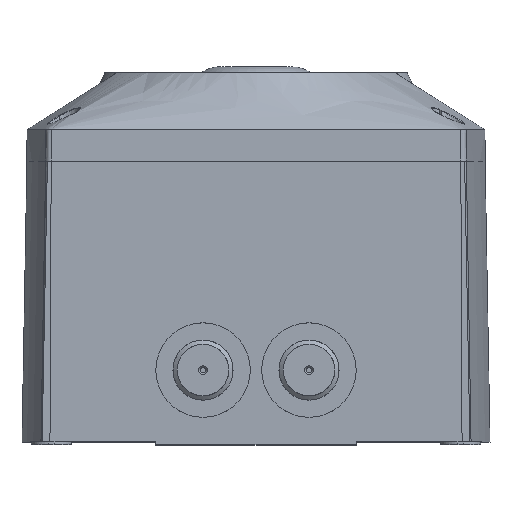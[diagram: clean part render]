
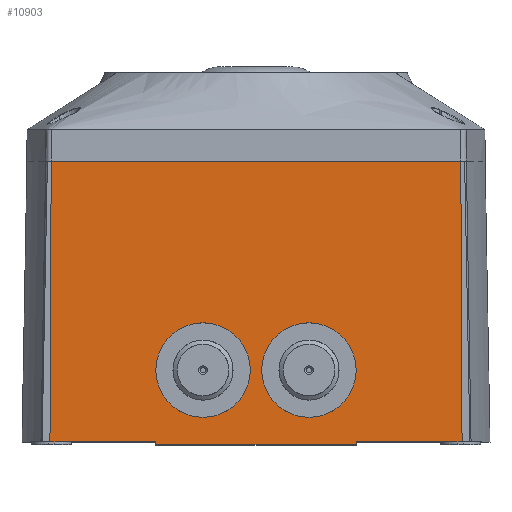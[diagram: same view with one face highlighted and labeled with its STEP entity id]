
A CAD part, top view. The second image highlights one B-rep face of the part: STEP entity #10903.
In plain terms, the highlighted planar face has unit normal (0, 0, 1).
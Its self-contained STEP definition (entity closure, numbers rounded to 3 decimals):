
#106 = VERTEX_POINT ( 'NONE', #13193 ) ;
#119 = VERTEX_POINT ( 'NONE', #13132 ) ;
#127 = EDGE_CURVE ( 'NONE', #119, #106, #13108, .T. ) ;
#135 = VERTEX_POINT ( 'NONE', #13115 ) ;
#137 = EDGE_CURVE ( 'NONE', #138, #135, #12998, .T. ) ;
#138 = VERTEX_POINT ( 'NONE', #13101 ) ;
#141 = VERTEX_POINT ( 'NONE', #13027 ) ;
#144 = EDGE_CURVE ( 'NONE', #157, #141, #13090, .T. ) ;
#148 = EDGE_CURVE ( 'NONE', #157, #119, #13066, .T. ) ;
#157 = VERTEX_POINT ( 'NONE', #12606 ) ;
#1166 = VERTEX_POINT ( 'NONE', #2011 ) ;
#1188 = EDGE_CURVE ( 'NONE', #1166, #106, #2497, .T. ) ;
#1199 = EDGE_CURVE ( 'NONE', #10904, #1166, #2533, .T. ) ;
#1203 = EDGE_LOOP ( 'NONE', ( #10905 ) ) ;
#2011 = CARTESIAN_POINT ( 'NONE',  ( -71.946, -8., 67.5 ) ) ;
#2465 = DIRECTION ( 'NONE',  ( -0.004, -1., 0. ) ) ;
#2495 = DIRECTION ( 'NONE',  ( 1., 0., 0. ) ) ;
#2496 = VECTOR ( 'NONE', #2495, 1000. ) ;
#2497 = LINE ( 'NONE', #2498, #2496 ) ;
#2498 = CARTESIAN_POINT ( 'NONE',  ( 150., -8., 67.5 ) ) ;
#2533 = LINE ( 'NONE', #2602, #2601 ) ;
#2601 = VECTOR ( 'NONE', #2465, 1000. ) ;
#2602 = CARTESIAN_POINT ( 'NONE',  ( -71.519, 90., 67.5 ) ) ;
#3935 = CIRCLE ( 'NONE', #4109, 16.502 ) ;
#3965 = FACE_BOUND ( 'NONE', #10774, .T. ) ;
#3982 = FACE_BOUND ( 'NONE', #1203, .T. ) ;
#4081 = DIRECTION ( 'NONE',  ( -1., 0., 0. ) ) ;
#4082 = DIRECTION ( 'NONE',  ( 0., 0., -1. ) ) ;
#4083 = AXIS2_PLACEMENT_3D ( 'NONE', #4105, #4082, #4081 ) ;
#4101 = CARTESIAN_POINT ( 'NONE',  ( -71.519, 90., 67.5 ) ) ;
#4102 = DIRECTION ( 'NONE',  ( -1., 0., 0. ) ) ;
#4103 = DIRECTION ( 'NONE',  ( 0., 0., 1. ) ) ;
#4104 = CARTESIAN_POINT ( 'NONE',  ( -18.5, 17., 67.5 ) ) ;
#4105 = CARTESIAN_POINT ( 'NONE',  ( 35., -9., 67.5 ) ) ;
#4107 = FACE_OUTER_BOUND ( 'NONE', #10776, .T. ) ;
#4108 = PLANE ( 'NONE',  #4083 ) ;
#4109 = AXIS2_PLACEMENT_3D ( 'NONE', #4104, #4103, #4102 ) ;
#4310 = DIRECTION ( 'NONE',  ( 1., 0., 0. ) ) ;
#4311 = VECTOR ( 'NONE', #4310, 1000. ) ;
#4312 = LINE ( 'NONE', #4313, #4311 ) ;
#4313 = CARTESIAN_POINT ( 'NONE',  ( 27.789, 90., 67.5 ) ) ;
#6411 = DIRECTION ( 'NONE',  ( 0., 0., 1. ) ) ;
#6418 = DIRECTION ( 'NONE',  ( 1., 0., 0. ) ) ;
#6419 = VECTOR ( 'NONE', #6418, 1000. ) ;
#6420 = LINE ( 'NONE', #6422, #6419 ) ;
#6422 = CARTESIAN_POINT ( 'NONE',  ( 150., -8., 67.5 ) ) ;
#6423 = DIRECTION ( 'NONE',  ( -1., 0., 0. ) ) ;
#6424 = CARTESIAN_POINT ( 'NONE',  ( 18.5, 17., 67.5 ) ) ;
#6427 = CIRCLE ( 'NONE', #6428, 16.502 ) ;
#6428 = AXIS2_PLACEMENT_3D ( 'NONE', #6424, #6411, #6423 ) ;
#10345 = CARTESIAN_POINT ( 'NONE',  ( -35.002, 17., 67.5 ) ) ;
#10348 = VERTEX_POINT ( 'NONE', #10345 ) ;
#10353 = CARTESIAN_POINT ( 'NONE',  ( 1.998, 17., 67.5 ) ) ;
#10356 = VERTEX_POINT ( 'NONE', #10353 ) ;
#10774 = EDGE_LOOP ( 'NONE', ( #10775 ) ) ;
#10775 = ORIENTED_EDGE ( 'NONE', *, *, #10797, .F. ) ;
#10776 = EDGE_LOOP ( 'NONE', ( #10778, #10901, #10781, #10783, #10777, #10780, #10925, #10782 ) ) ;
#10777 = ORIENTED_EDGE ( 'NONE', *, *, #144, .T. ) ;
#10778 = ORIENTED_EDGE ( 'NONE', *, *, #1199, .T. ) ;
#10780 = ORIENTED_EDGE ( 'NONE', *, *, #10799, .T. ) ;
#10781 = ORIENTED_EDGE ( 'NONE', *, *, #127, .F. ) ;
#10782 = ORIENTED_EDGE ( 'NONE', *, *, #10927, .F. ) ;
#10783 = ORIENTED_EDGE ( 'NONE', *, *, #148, .F. ) ;
#10797 = EDGE_CURVE ( 'NONE', #10356, #10356, #6427, .T. ) ;
#10799 = EDGE_CURVE ( 'NONE', #141, #138, #6420, .T. ) ;
#10901 = ORIENTED_EDGE ( 'NONE', *, *, #1188, .T. ) ;
#10902 = EDGE_CURVE ( 'NONE', #10348, #10348, #3935, .T. ) ;
#10903 = ADVANCED_FACE ( 'NONE', ( #3982, #3965, #4107 ), #4108, .F. ) ;
#10904 = VERTEX_POINT ( 'NONE', #4101 ) ;
#10905 = ORIENTED_EDGE ( 'NONE', *, *, #10902, .F. ) ;
#10925 = ORIENTED_EDGE ( 'NONE', *, *, #137, .T. ) ;
#10927 = EDGE_CURVE ( 'NONE', #10904, #135, #4312, .T. ) ;
#12606 = CARTESIAN_POINT ( 'NONE',  ( 34.991, -9., 67.5 ) ) ;
#12997 = VECTOR ( 'NONE', #13010, 1000. ) ;
#12998 = LINE ( 'NONE', #13004, #12997 ) ;
#13004 = CARTESIAN_POINT ( 'NONE',  ( 71.519, 90., 67.5 ) ) ;
#13010 = DIRECTION ( 'NONE',  ( -0.004, 1., 0. ) ) ;
#13021 = CARTESIAN_POINT ( 'NONE',  ( 35., -9., 67.5 ) ) ;
#13027 = CARTESIAN_POINT ( 'NONE',  ( 35., -8., 67.5 ) ) ;
#13030 = CARTESIAN_POINT ( 'NONE',  ( 34.991, -9., 67.5 ) ) ;
#13064 = DIRECTION ( 'NONE',  ( -1., 0., 0. ) ) ;
#13065 = VECTOR ( 'NONE', #13064, 1000. ) ;
#13066 = LINE ( 'NONE', #13021, #13065 ) ;
#13088 = DIRECTION ( 'NONE',  ( 0.009, 1., 0. ) ) ;
#13089 = VECTOR ( 'NONE', #13088, 1000. ) ;
#13090 = LINE ( 'NONE', #13030, #13089 ) ;
#13101 = CARTESIAN_POINT ( 'NONE',  ( 71.946, -8., 67.5 ) ) ;
#13105 = DIRECTION ( 'NONE',  ( -0.009, 1., 0. ) ) ;
#13106 = VECTOR ( 'NONE', #13105, 1000. ) ;
#13107 = CARTESIAN_POINT ( 'NONE',  ( -35., -8., 67.5 ) ) ;
#13108 = LINE ( 'NONE', #13107, #13106 ) ;
#13115 = CARTESIAN_POINT ( 'NONE',  ( 71.519, 90., 67.5 ) ) ;
#13132 = CARTESIAN_POINT ( 'NONE',  ( -34.991, -9., 67.5 ) ) ;
#13193 = CARTESIAN_POINT ( 'NONE',  ( -35., -8., 67.5 ) ) ;
